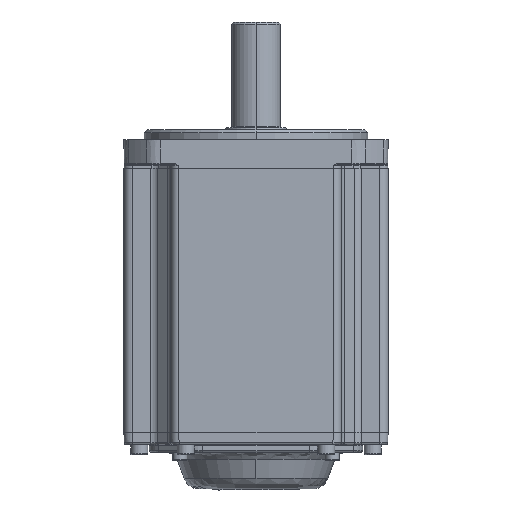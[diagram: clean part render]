
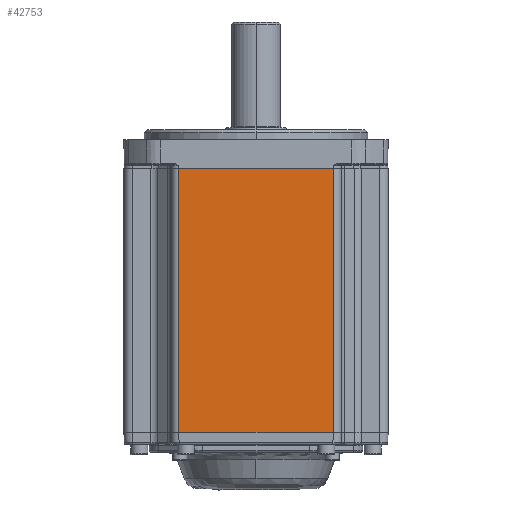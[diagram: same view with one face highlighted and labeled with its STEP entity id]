
A CAD part, front view. The second image highlights one B-rep face of the part: STEP entity #42753.
In plain terms, the highlighted planar face has unit normal (0, -1, 0).
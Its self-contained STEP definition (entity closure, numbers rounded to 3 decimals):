
#2939 = CARTESIAN_POINT ( 'NONE',  ( -38., -65., 917.8 ) ) ;
#3947 = CARTESIAN_POINT ( 'NONE',  ( 38., -65., 917.8 ) ) ;
#4391 = PLANE ( 'NONE',  #31827 ) ;
#7509 = LINE ( 'NONE', #61801, #21839 ) ;
#9353 = VERTEX_POINT ( 'NONE', #12455 ) ;
#10496 = VECTOR ( 'NONE', #36204, 1000. ) ;
#12455 = CARTESIAN_POINT ( 'NONE',  ( 38., -65., -82.2 ) ) ;
#18907 = DIRECTION ( 'NONE',  ( 0., 1., 0. ) ) ;
#20850 = VECTOR ( 'NONE', #23319, 1000. ) ;
#21839 = VECTOR ( 'NONE', #57353, 1000. ) ;
#21927 = CARTESIAN_POINT ( 'NONE',  ( -38., -65., 47.8 ) ) ;
#23135 = DIRECTION ( 'NONE',  ( 0., 0., -1. ) ) ;
#23319 = DIRECTION ( 'NONE',  ( 0., 0., 1. ) ) ;
#31827 = AXIS2_PLACEMENT_3D ( 'NONE', #52699, #18907, #33006 ) ;
#32465 = EDGE_CURVE ( 'NONE', #35504, #9353, #48892, .T. ) ;
#33006 = DIRECTION ( 'NONE',  ( 0., 0., 1. ) ) ;
#33849 = EDGE_CURVE ( 'NONE', #61886, #35504, #61494, .T. ) ;
#35504 = VERTEX_POINT ( 'NONE', #51250 ) ;
#36162 = CARTESIAN_POINT ( 'NONE',  ( -42., -65., -82.2 ) ) ;
#36204 = DIRECTION ( 'NONE',  ( 1., 0., 0. ) ) ;
#38730 = EDGE_CURVE ( 'NONE', #9353, #54053, #50109, .T. ) ;
#39060 = ORIENTED_EDGE ( 'NONE', *, *, #32465, .T. ) ;
#39555 = CARTESIAN_POINT ( 'NONE',  ( 38., -65., 47.8 ) ) ;
#40388 = ORIENTED_EDGE ( 'NONE', *, *, #47994, .F. ) ;
#40460 = VECTOR ( 'NONE', #23135, 1000. ) ;
#42104 = FACE_OUTER_BOUND ( 'NONE', #49531, .T. ) ;
#42753 = ADVANCED_FACE ( 'NONE', ( #42104 ), #4391, .F. ) ;
#47397 = ORIENTED_EDGE ( 'NONE', *, *, #38730, .T. ) ;
#47994 = EDGE_CURVE ( 'NONE', #61886, #54053, #7509, .T. ) ;
#48892 = LINE ( 'NONE', #36162, #10496 ) ;
#49531 = EDGE_LOOP ( 'NONE', ( #40388, #56580, #39060, #47397 ) ) ;
#50109 = LINE ( 'NONE', #3947, #20850 ) ;
#51250 = CARTESIAN_POINT ( 'NONE',  ( -38., -65., -82.2 ) ) ;
#52699 = CARTESIAN_POINT ( 'NONE',  ( -42., -65., 917.8 ) ) ;
#54053 = VERTEX_POINT ( 'NONE', #39555 ) ;
#56580 = ORIENTED_EDGE ( 'NONE', *, *, #33849, .T. ) ;
#57353 = DIRECTION ( 'NONE',  ( 1., 0., 0. ) ) ;
#61494 = LINE ( 'NONE', #2939, #40460 ) ;
#61801 = CARTESIAN_POINT ( 'NONE',  ( -42., -65., 47.8 ) ) ;
#61886 = VERTEX_POINT ( 'NONE', #21927 ) ;
